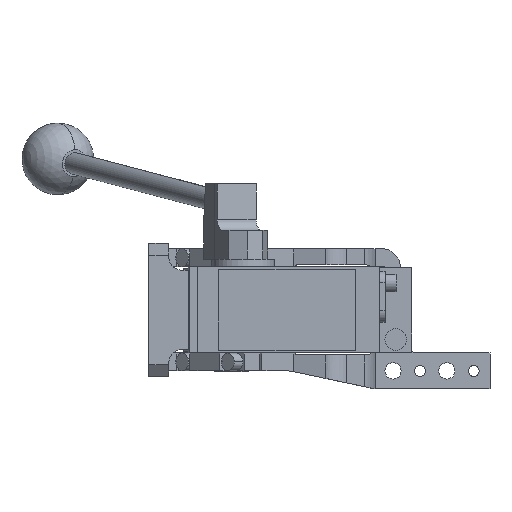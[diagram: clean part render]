
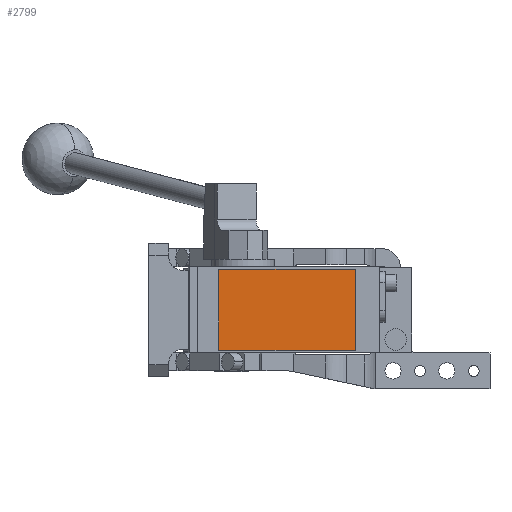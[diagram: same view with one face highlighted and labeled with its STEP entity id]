
A CAD part, front view. The second image highlights one B-rep face of the part: STEP entity #2799.
In plain terms, the highlighted planar face has unit normal (0, -1, 0).
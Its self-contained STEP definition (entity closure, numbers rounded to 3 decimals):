
#221 = EDGE_CURVE ( 'NONE', #10646, #11035, #1513, .T. ) ;
#1357 = ORIENTED_EDGE ( 'NONE', *, *, #6988, .T. ) ;
#1513 = LINE ( 'NONE', #6515, #7339 ) ;
#2799 = ADVANCED_FACE ( 'NONE', ( #15109 ), #6470, .T. ) ;
#2965 = DIRECTION ( 'NONE',  ( 0., 0., -1. ) ) ;
#3085 = VECTOR ( 'NONE', #2965, 1000. ) ;
#3220 = CARTESIAN_POINT ( 'NONE',  ( -7., -280.5, 22.5 ) ) ;
#3938 = EDGE_CURVE ( 'NONE', #10051, #15012, #6726, .T. ) ;
#4313 = DIRECTION ( 'NONE',  ( -1., 0., 0. ) ) ;
#4361 = VECTOR ( 'NONE', #4313, 1000. ) ;
#4401 = CARTESIAN_POINT ( 'NONE',  ( -7., -280.5, 22.5 ) ) ;
#5033 = ORIENTED_EDGE ( 'NONE', *, *, #15395, .T. ) ;
#5801 = DIRECTION ( 'NONE',  ( 0., -1., 0. ) ) ;
#6016 = ORIENTED_EDGE ( 'NONE', *, *, #221, .T. ) ;
#6170 = AXIS2_PLACEMENT_3D ( 'NONE', #11766, #5801, #12077 ) ;
#6436 = CARTESIAN_POINT ( 'NONE',  ( -7., -280.5, 22.5 ) ) ;
#6470 = PLANE ( 'NONE',  #6170 ) ;
#6515 = CARTESIAN_POINT ( 'NONE',  ( 69., -280.5, 22.5 ) ) ;
#6726 = LINE ( 'NONE', #3220, #3085 ) ;
#6881 = ORIENTED_EDGE ( 'NONE', *, *, #3938, .T. ) ;
#6988 = EDGE_CURVE ( 'NONE', #11035, #10051, #13299, .T. ) ;
#7339 = VECTOR ( 'NONE', #9286, 1000. ) ;
#7839 = VECTOR ( 'NONE', #10581, 1000. ) ;
#8284 = CARTESIAN_POINT ( 'NONE',  ( -7., -280.5, -22.5 ) ) ;
#9286 = DIRECTION ( 'NONE',  ( 0., 0., 1. ) ) ;
#10034 = EDGE_LOOP ( 'NONE', ( #6881, #5033, #6016, #1357 ) ) ;
#10051 = VERTEX_POINT ( 'NONE', #6436 ) ;
#10291 = CARTESIAN_POINT ( 'NONE',  ( 69., -280.5, 22.5 ) ) ;
#10581 = DIRECTION ( 'NONE',  ( 1., 0., 0. ) ) ;
#10646 = VERTEX_POINT ( 'NONE', #13418 ) ;
#11035 = VERTEX_POINT ( 'NONE', #10291 ) ;
#11766 = CARTESIAN_POINT ( 'NONE',  ( 0., -280.5, 0. ) ) ;
#12077 = DIRECTION ( 'NONE',  ( 0., 0., -1. ) ) ;
#13299 = LINE ( 'NONE', #4401, #4361 ) ;
#13418 = CARTESIAN_POINT ( 'NONE',  ( 69., -280.5, -22.5 ) ) ;
#15012 = VERTEX_POINT ( 'NONE', #16064 ) ;
#15109 = FACE_OUTER_BOUND ( 'NONE', #10034, .T. ) ;
#15395 = EDGE_CURVE ( 'NONE', #15012, #10646, #15548, .T. ) ;
#15548 = LINE ( 'NONE', #8284, #7839 ) ;
#16064 = CARTESIAN_POINT ( 'NONE',  ( -7., -280.5, -22.5 ) ) ;
